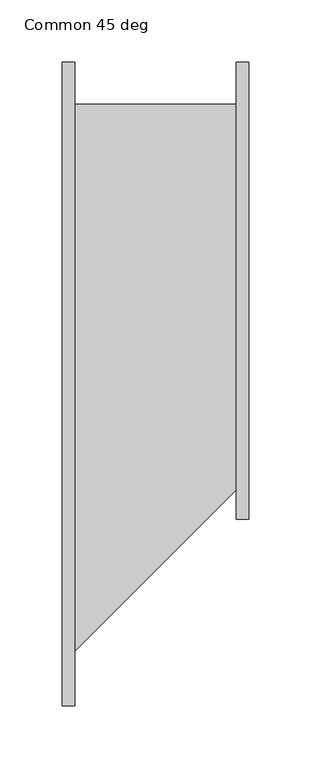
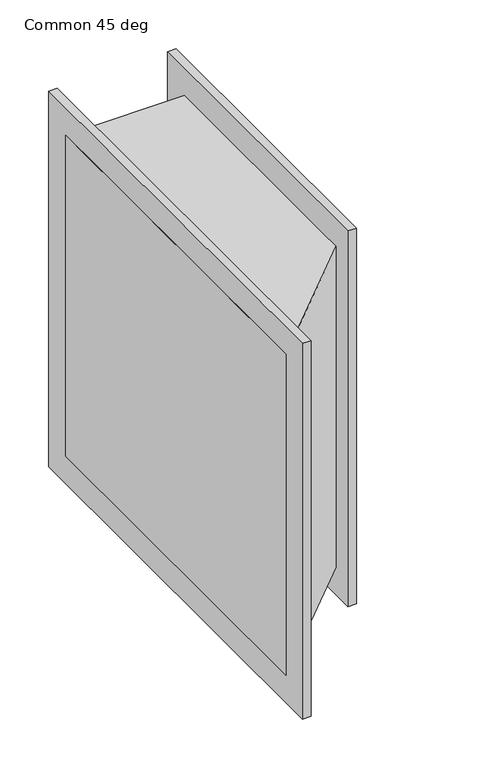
"""IFC4 building model written with IfcOpenShell, lengths in millimetres: duct fitting geometry, 041_角型置換 - フランジ - 角度 : Common 45 deg."""

from ifc_helpers import new_model, si_unit, frame, origin, place, context, project, spatial, polyline, outline, extrude, source, transform, mapped, element, save


def common_45_deg_379defe2(model_context):
    return source(origin(), model_context, "Body", "SweptSolid", [
        extrude(outline(polyline([(0.0, -225.0), (0.0, 225.0), (150.0, 225.0), (150.0, -75.0), (0.0, -225.0)])), frame((0.0, 0.0, -200.0), z_axis=(0.0, 0.0, 1.0), x_axis=(1.0, 0.0, 0.0)), (0.0, 0.0, 1.0), 400.0),
        extrude(outline(polyline([(150.0, 259.0), (150.0, -109.0), (140.0, -109.0), (140.0, 259.0), (150.0, 259.0)])), frame((0.0, 0.0, -234.0), z_axis=(0.0, 0.0, 1.0), x_axis=(1.0, 0.0, 0.0)), (0.0, 0.0, 1.0), 468.0),
        extrude(outline(polyline([(10.0, 259.0), (10.0, -259.0), (0.0, -259.0), (0.0, 259.0), (10.0, 259.0)])), frame((0.0, 0.0, -234.0), z_axis=(0.0, 0.0, 1.0), x_axis=(1.0, 0.0, 0.0)), (0.0, 0.0, 1.0), 468.0),
    ])


if __name__ == "__main__":
    model = new_model("IFC4")
    model_context = context("Model", 3, world=origin())
    ifc_project = project(units=[si_unit("LENGTHUNIT", "METRE", prefix="MILLI")], contexts=[model_context])
    site = spatial("IfcSite", under=ifc_project)
    building = spatial("IfcBuilding", under=site)
    placement = place(None, origin())
    common_45_deg_shape = common_45_deg_379defe2(model_context)
    element("IfcDuctFitting", 1, ObjectType="041_角型置換 - フランジ - 角度 : Common 45 deg", at=placement, inside=building, context=model_context, shape_type="MappedRepresentation", body=[
        mapped(common_45_deg_shape, transform((0.0, 0.0, 0.0), x_axis=(1.0, 0.0, 0.0), y_axis=(0.0, 1.0, 0.0), z_axis=(0.0, 0.0, 1.0))),
    ])
    save(model, "model.ifc")
